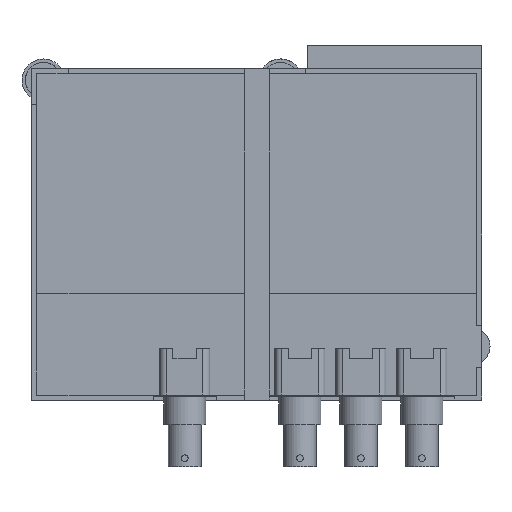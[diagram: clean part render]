
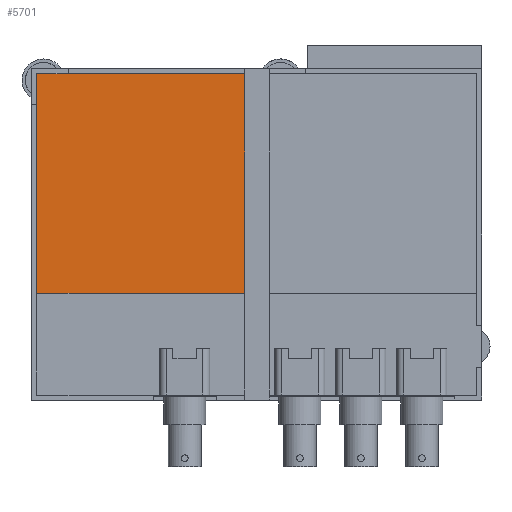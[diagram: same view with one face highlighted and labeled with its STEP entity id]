
A CAD part, top view. The second image highlights one B-rep face of the part: STEP entity #5701.
In plain terms, the highlighted planar face has unit normal (0, 0, 1).
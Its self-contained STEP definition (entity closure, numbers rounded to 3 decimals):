
#1323=DIRECTION('',(1.,0.,0.));
#1324=VECTOR('',#1323,61.3);
#1325=CARTESIAN_POINT('',(1.5,31.5,-9.5));
#1326=LINE('',#1325,#1324);
#1327=DIRECTION('',(0.,1.,0.));
#1328=VECTOR('',#1327,64.8);
#1329=CARTESIAN_POINT('',(1.5,31.5,-9.5));
#1330=LINE('',#1329,#1328);
#1331=DIRECTION('',(-1.,0.,0.));
#1332=VECTOR('',#1331,61.3);
#1333=CARTESIAN_POINT('',(62.8,96.3,-9.5));
#1334=LINE('',#1333,#1332);
#1355=DIRECTION('',(0.,1.,0.));
#1356=VECTOR('',#1355,64.8);
#1357=CARTESIAN_POINT('',(62.8,31.5,-9.5));
#1358=LINE('',#1357,#1356);
#3588=CARTESIAN_POINT('',(62.8,96.3,-9.5));
#3590=VERTEX_POINT('',#3588);
#3611=CARTESIAN_POINT('',(1.5,96.3,-9.5));
#3612=VERTEX_POINT('',#3611);
#3623=CARTESIAN_POINT('',(1.5,31.5,-9.5));
#3624=CARTESIAN_POINT('',(62.8,31.5,-9.5));
#3625=VERTEX_POINT('',#3623);
#3626=VERTEX_POINT('',#3624);
#5687=CARTESIAN_POINT('',(0.,0.,-9.5));
#5688=DIRECTION('',(0.,0.,1.));
#5689=DIRECTION('',(1.,0.,0.));
#5690=AXIS2_PLACEMENT_3D('',#5687,#5688,#5689);
#5691=PLANE('',#5690);
#5693=ORIENTED_EDGE('',*,*,#5692,.F.);
#5695=ORIENTED_EDGE('',*,*,#5694,.T.);
#5696=ORIENTED_EDGE('',*,*,#4119,.F.);
#5698=ORIENTED_EDGE('',*,*,#5697,.F.);
#5699=EDGE_LOOP('',(#5693,#5695,#5696,#5698));
#5700=FACE_OUTER_BOUND('',#5699,.F.);
#5701=ADVANCED_FACE('',(#5700),#5691,.T.);
#4119=EDGE_CURVE('',#3590,#3612,#1334,.T.);
#5692=EDGE_CURVE('',#3625,#3626,#1326,.T.);
#5694=EDGE_CURVE('',#3625,#3612,#1330,.T.);
#5697=EDGE_CURVE('',#3626,#3590,#1358,.T.);
